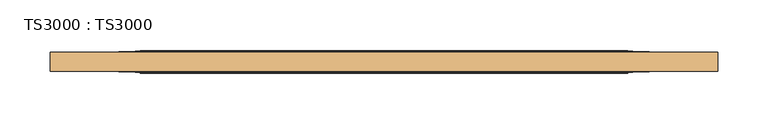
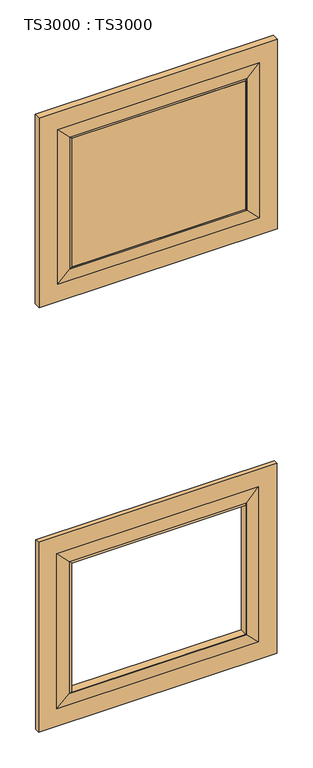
"""IFC4 building model written with IfcOpenShell, lengths in millimetres: door geometry, TS3000 : TS3000."""

import ifcopenshell
import ifcopenshell.guid

model = None  # the IFC model being written
_history = None  # IfcOwnerHistory: only IFC2X3 demands one
_inside = {}  # id of a spatial element -> (the spatial element, [elements in it])
_under = {}  # id of a project, library or spatial element -> (it, [spatial elements below it])
_declared = {}  # id of a project -> (the project, [libraries it declares])
_typed = {}  # id of a type object -> (the type object, [elements of that type])
_made_of = {}  # id of a material, layer set ... -> (it, [elements and type objects made of it])


def new_model(schema):
    """Start an empty IFC model of exactly this schema.

    Asked for "IFC4X3", IfcOpenShell would pick the latest addendum, in which some entities
    have other attributes; the version numbers below select the first issue.
    IFC2X3 requires an IfcOwnerHistory on every rooted entity: one is made here for all.
    """
    global model, _history
    if schema == "IFC4X3":
        model = ifcopenshell.file(schema_version=(4, 3, 0, 0))
    else:
        model = ifcopenshell.file(schema=schema)
    _inside.clear()
    _under.clear()
    _declared.clear()
    _typed.clear()
    _made_of.clear()
    _history = None
    if model.schema == "IFC2X3":
        org = make("IfcOrganization", Name="unknown")
        user = make(
            "IfcPersonAndOrganization",
            ThePerson=make("IfcPerson", FamilyName="unknown"),
            TheOrganization=org,
        )
        app = make(
            "IfcApplication",
            ApplicationDeveloper=org,
            Version="unknown",
            ApplicationFullName="unknown",
            ApplicationIdentifier="unknown",
        )
        _history = make(
            "IfcOwnerHistory",
            OwningUser=user,
            OwningApplication=app,
            ChangeAction="ADDED",
            CreationDate=0,
        )
    return model


def make(cls, **values):
    """One entity of the class cls with the attributes given. An attribute that is None is left unset."""
    return model.create_entity(
        cls, **{name: value for name, value in values.items() if value is not None}
    )


def rooted(cls, **values):
    """An entity with a GlobalId (a new one), such as an element, a storey or a relation."""
    return make(cls, GlobalId=ifcopenshell.guid.new(), OwnerHistory=_history, **values)


def si_unit(unit_type, name, prefix=None):
    """IfcSIUnit, for example si_unit("LENGTHUNIT", "METRE", prefix="MILLI")."""
    return make("IfcSIUnit", UnitType=unit_type, Prefix=prefix, Name=name)


def assignment(units):
    """IfcUnitAssignment: the units of a project."""
    return None if units is None else make("IfcUnitAssignment", Units=units)


def point(xyz):
    """IfcCartesianPoint."""
    return None if xyz is None else make("IfcCartesianPoint", Coordinates=xyz)


def direction(xyz):
    """IfcDirection."""
    return None if xyz is None else make("IfcDirection", DirectionRatios=xyz)


def frame(location, z_axis=None, x_axis=None):
    """IfcAxis2Placement3D, a coordinate frame: its origin and axes. An axis left out is left unset."""
    return make(
        "IfcAxis2Placement3D",
        Location=point(location),
        Axis=direction(z_axis),
        RefDirection=direction(x_axis),
    )


def origin():
    """The frame at (0, 0, 0) with its axes left unset."""
    return frame((0.0, 0.0, 0.0))


def place(relative_to, where):
    """IfcLocalPlacement: puts the frame where relative to a parent placement (None: the world)."""
    return make(
        "IfcLocalPlacement", PlacementRelTo=relative_to, RelativePlacement=where
    )


def context(
    kind, dimensions, precision=None, world=None, true_north=None, identifier=None
):
    """IfcGeometricRepresentationContext, for example the 3D "Model" context."""
    return make(
        "IfcGeometricRepresentationContext",
        ContextIdentifier=identifier,
        ContextType=kind,
        CoordinateSpaceDimension=dimensions,
        Precision=precision,
        WorldCoordinateSystem=world,
        TrueNorth=true_north,
    )


def project(units=None, contexts=None):
    """IfcProject with its units and contexts."""
    return rooted(
        "IfcProject",
        Name="project",
        RepresentationContexts=contexts,
        UnitsInContext=assignment(units),
    )


def spatial(cls, under=None, at=None, **own):
    """A site, building, storey or space (cls), placed at a placement, below another one or the project."""
    s = rooted(cls, ObjectPlacement=at, **own)
    if under is not None:
        _under.setdefault(under.id(), (under, []))[1].append(s)
    return s


def polyline(points):
    """IfcPolyline through the points."""
    return make("IfcPolyline", Points=[point(p) for p in points])


def ellipse_curve(where, semi_axis1, semi_axis2):
    """IfcEllipse in the frame where."""
    return make(
        "IfcEllipse", Position=where, SemiAxis1=semi_axis1, SemiAxis2=semi_axis2
    )


def outline(outer, holes=None, kind="AREA"):
    """IfcArbitraryClosedProfileDef: a profile drawn as a closed curve; with holes, ...WithVoids."""
    if holes is None:
        return make("IfcArbitraryClosedProfileDef", ProfileType=kind, OuterCurve=outer)
    return make(
        "IfcArbitraryProfileDefWithVoids",
        ProfileType=kind,
        OuterCurve=outer,
        InnerCurves=holes,
    )


def extrude(swept, where, along, depth):
    """IfcExtrudedAreaSolid: the profile swept, set in the frame where, extruded along a direction by depth."""
    return make(
        "IfcExtrudedAreaSolid",
        SweptArea=swept,
        Position=where,
        ExtrudedDirection=direction(along),
        Depth=depth,
    )


def shape(context_of_items, identifier, shape_type, items):
    """IfcShapeRepresentation: the items that make up one representation, for example the "Body"."""
    return make(
        "IfcShapeRepresentation",
        ContextOfItems=context_of_items,
        RepresentationIdentifier=identifier,
        RepresentationType=shape_type,
        Items=items,
    )


def source(mapping_origin, context_of_items, identifier, shape_type, items):
    """IfcRepresentationMap: a shape defined once, which mapped items show again and again."""
    return make(
        "IfcRepresentationMap",
        MappingOrigin=mapping_origin,
        MappedRepresentation=shape(context_of_items, identifier, shape_type, items),
    )


def transform(
    local_origin,
    x_axis=None,
    y_axis=None,
    z_axis=None,
    scale=None,
    scale2=None,
    scale3=None,
    uniform=True,
):
    """IfcCartesianTransformationOperator3D, or its non-uniform kind. x_axis, y_axis, z_axis: its Axis1, 2, 3."""
    if uniform:
        return make(
            "IfcCartesianTransformationOperator3D",
            Axis1=direction(x_axis),
            Axis2=direction(y_axis),
            LocalOrigin=point(local_origin),
            Scale=scale,
            Axis3=direction(z_axis),
        )
    return make(
        "IfcCartesianTransformationOperator3DnonUniform",
        Axis1=direction(x_axis),
        Axis2=direction(y_axis),
        LocalOrigin=point(local_origin),
        Scale=scale,
        Axis3=direction(z_axis),
        Scale2=scale2,
        Scale3=scale3,
    )


def mapped(mapping_source, mapping_target):
    """IfcMappedItem: shows the shape of a source again, moved by a transform."""
    return make(
        "IfcMappedItem", MappingSource=mapping_source, MappingTarget=mapping_target
    )


def made_of(thing, what):
    """Note that an element or type object is made of a material, layer set ...; save() writes the relation."""
    if what is not None:
        _made_of.setdefault(what.id(), (what, []))[1].append(thing)
    return thing


def element(
    cls,
    number,
    at=None,
    inside=None,
    cuts=None,
    type_object=None,
    material=None,
    context=None,
    identifier="Body",
    shape_type=None,
    held_by="IfcProductDefinitionShape",
    body=None,
    shapes=None,
    **own,
):
    """One element of the class cls, such as IfcWall. Its Tag is "e" and its number.

    at: its placement. inside: the storey or other place that contains it. cuts: it is an
    opening in that element (IfcRelVoidsElement). A single representation is given by context,
    identifier, shape_type and body (its items); several are given by shapes. held_by: the class
    of the entity that holds the representations. save() writes the other relations.
    """
    e = rooted(cls, Tag="e%d" % number, ObjectPlacement=at, **own)
    if body is not None:
        shapes = [shape(context, identifier, shape_type, body)]
    if shapes is not None:
        e.Representation = make(held_by, Representations=shapes)
    if inside is not None:
        _inside.setdefault(inside.id(), (inside, []))[1].append(e)
    if cuts is not None:
        rooted(
            "IfcRelVoidsElement", RelatingBuildingElement=cuts, RelatedOpeningElement=e
        )
    if type_object is not None:
        _typed.setdefault(type_object.id(), (type_object, []))[1].append(e)
    return made_of(e, material)


def aggregate(whole, parts):
    """IfcRelAggregates: a whole, such as a stair, and the parts it consists of."""
    return rooted("IfcRelAggregates", RelatingObject=whole, RelatedObjects=parts)


def save(model, path):
    """Write the relations noted so far, then the file.

    IfcRelAggregates (storeys below a building ...), IfcRelContainedInSpatialStructure (elements
    in a storey), IfcRelDefinesByType, IfcRelAssociatesMaterial and IfcRelDeclares: one each for
    every whole, place, type object, material and project.
    """
    for whole, parts in _under.values():
        aggregate(whole, parts)
    for where, things in _inside.values():
        rooted(
            "IfcRelContainedInSpatialStructure",
            RelatedElements=things,
            RelatingStructure=where,
        )
    for kind, things in _typed.values():
        rooted("IfcRelDefinesByType", RelatedObjects=things, RelatingType=kind)
    for what, things in _made_of.values():
        rooted("IfcRelAssociatesMaterial", RelatedObjects=things, RelatingMaterial=what)
    for by, libraries in _declared.values():
        rooted("IfcRelDeclares", RelatingContext=by, RelatedDefinitions=libraries)
    model.write(path)


def plane_surface(at):
    """IfcPlane: the flat surface through the origin of the frame at, square to its z axis."""
    return make("IfcPlane", Position=at)


def revolved_surface(curve, axis_point, axis_direction):
    """IfcSurfaceOfRevolution: the curve turned about the line through axis_point along axis_direction."""
    return make(
        "IfcSurfaceOfRevolution",
        SweptCurve=make("IfcArbitraryOpenProfileDef", ProfileType="CURVE", Curve=curve),
        AxisPosition=make("IfcAxis1Placement", Location=point(axis_point), Axis=direction(axis_direction)),
    )


def advanced_brep(points, edges, surfaces, faces):
    """IfcAdvancedBrep: a solid bounded by faces that lie on surfaces and meet in shared edges.

    An edge is (start, end): straight between two places in points (the first is 0);
    or (start, end, curve); or (start, end, curve, False) where it runs against its curve.
    A face is (place in surfaces, loops), or (place, loops, False) where it looks against
    its surface's normal. A loop lists edges by number (the first is 1), with a minus sign
    where the edge is run from its end to its start. The first loop is the outer one.
    """
    corners = [point(p) for p in points]
    vertices = [make("IfcVertexPoint", VertexGeometry=c) for c in corners]
    made = []
    for start, end, *more in edges:
        made.append(
            make(
                "IfcEdgeCurve",
                EdgeStart=vertices[start],
                EdgeEnd=vertices[end],
                EdgeGeometry=more[0] if more else make("IfcPolyline", Points=[corners[start], corners[end]]),
                SameSense=more[1] if len(more) > 1 else True,
            )
        )
    hull = []
    for where, loops, *sense in faces:
        bounds = []
        for j, loop in enumerate(loops):
            ring = [make("IfcOrientedEdge", EdgeElement=made[abs(k) - 1], Orientation=k > 0) for k in loop]
            bounds.append(
                make(
                    "IfcFaceOuterBound" if j == 0 else "IfcFaceBound",
                    Bound=make("IfcEdgeLoop", EdgeList=ring),
                    Orientation=True,
                )
            )
        hull.append(make("IfcAdvancedFace", Bounds=bounds, FaceSurface=surfaces[where], SameSense=sense[0] if sense else True))
    return make("IfcAdvancedBrep", Outer=make("IfcClosedShell", CfsFaces=hull))


def ts3000_ts3000_854737be(model_context):
    return source(origin(), model_context, "Body", "SolidModel", [
        advanced_brep(
        [(787.4, -15.875, 764.1166667), (787.4, -28.575, 764.1166667), (787.4, -28.575, 209.55), (787.4, -15.875, 209.55), (698.5, -33.3375, 675.2166667), (698.5, -11.1125, 675.2166667), (698.5, -11.1125, 298.45), (698.5, -33.3375, 298.45), (127.0, -28.575, 209.55), (127.0, -15.875, 209.55), (215.9, -11.1125, 298.45), (215.9, -33.3375, 298.45), (127.0, -28.575, 764.1166667), (127.0, -15.875, 764.1166667), (215.9, -11.1125, 675.2166667), (215.9, -33.3375, 675.2166667), (736.6, -28.575, 260.35), (177.8, -28.575, 260.35), (177.8, -28.575, 713.3166667), (736.6, -28.575, 713.3166667), (736.6, -15.875, 713.3166667), (177.8, -15.875, 713.3166667), (177.8, -15.875, 260.35), (736.6, -15.875, 260.35), (703.2625, -30.95625, 679.9791667), (703.2625, -30.95625, 293.6875), (211.1375, -30.95625, 293.6875), (211.1375, -30.95625, 679.9791667), (703.2625, -13.49375, 679.9791667), (703.2625, -13.49375, 293.6875), (211.1375, -13.49375, 293.6875), (211.1375, -13.49375, 679.9791667)],
        [
            (0, 1),
            (1, 2),
            (2, 3),
            (3, 0),
            (4, 5),
            (5, 6),
            (6, 7),
            (7, 4),
            (2, 8),
            (8, 9),
            (9, 3),
            (6, 10),
            (10, 11),
            (11, 7),
            (8, 12),
            (12, 13),
            (13, 9),
            (10, 14),
            (14, 15),
            (15, 11),
            (1, 12),
            (16, 17),
            (17, 18),
            (18, 19),
            (19, 16),
            (0, 13),
            (20, 21),
            (21, 22),
            (22, 23),
            (23, 20),
            (14, 5),
            (4, 15),
            (19, 24),
            (24, 25),
            (25, 16),
            (25, 26),
            (26, 17),
            (26, 27),
            (27, 18),
            (27, 24),
            (28, 20),
            (23, 29),
            (29, 28),
            (5, 28, ellipse_curve(frame((703.7585938, -6.5484375, 680.4752604), z_axis=(-0.7071067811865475, 0.0, 0.7071067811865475), x_axis=(-0.7071067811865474, 0.0, -0.7071067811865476)), 9.8471798, 6.9630076)),
            (29, 6, ellipse_curve(frame((703.7585938, -6.5484375, 293.1914062), z_axis=(-0.7071067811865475, 0.0, -0.7071067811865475), x_axis=(0.7071067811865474, 0.0, -0.7071067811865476)), 9.8471798, 6.9630076)),
            (24, 4, ellipse_curve(frame((703.7585938, -37.9015625, 680.4752604), z_axis=(-0.7071067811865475, 0.0, 0.7071067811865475), x_axis=(-0.7071067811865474, 0.0, -0.7071067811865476)), 9.8471798, 6.9630076)),
            (7, 25, ellipse_curve(frame((703.7585938, -37.9015625, 293.1914062), z_axis=(-0.7071067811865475, 0.0, -0.7071067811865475), x_axis=(0.7071067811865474, 0.0, -0.7071067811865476)), 9.8471798, 6.9630076)),
            (22, 30),
            (30, 29),
            (30, 10, ellipse_curve(frame((210.6414062, -6.5484375, 293.1914062), z_axis=(-0.7071067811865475, 0.0, 0.7071067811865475), x_axis=(-0.7071067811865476, 0.0, -0.7071067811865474)), 9.8471798, 6.9630076)),
            (11, 26, ellipse_curve(frame((210.6414062, -37.9015625, 293.1914062), z_axis=(-0.7071067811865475, 0.0, 0.7071067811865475), x_axis=(-0.7071067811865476, 0.0, -0.7071067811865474)), 9.8471798, 6.9630076)),
            (21, 31),
            (31, 30),
            (31, 14, ellipse_curve(frame((210.6414062, -6.5484375, 680.4752604), z_axis=(0.7071067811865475, 0.0, 0.7071067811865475), x_axis=(-0.7071067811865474, 0.0, 0.7071067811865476)), 9.8471798, 6.9630076)),
            (15, 27, ellipse_curve(frame((210.6414062, -37.9015625, 680.4752604), z_axis=(0.7071067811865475, 0.0, 0.7071067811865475), x_axis=(-0.7071067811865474, 0.0, 0.7071067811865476)), 9.8471798, 6.9630076)),
            (28, 31),
        ],
        [
            plane_surface(frame((787.4, -28.575, 764.1166667), z_axis=(1.0, 0.0, 0.0), x_axis=(0.0, 0.0, -1.0))),
            plane_surface(frame((698.5, -11.1125, 675.2166667), z_axis=(-1.0, 0.0, 0.0), x_axis=(0.0, 0.0, -1.0))),
            plane_surface(frame((787.4, -28.575, 209.55), z_axis=(0.0, 0.0, -1.0), x_axis=(-1.0, 0.0, 0.0))),
            plane_surface(frame((698.5, -11.1125, 298.45), z_axis=(0.0, 0.0, 1.0), x_axis=(-1.0, 0.0, 0.0))),
            plane_surface(frame((127.0, -28.575, 209.55), z_axis=(-1.0, 0.0, 0.0), x_axis=(0.0, 0.0, 1.0))),
            plane_surface(frame((215.9, -11.1125, 298.45), z_axis=(1.0, 0.0, 0.0), x_axis=(0.0, 0.0, 1.0))),
            plane_surface(frame((177.8, -28.575, 713.3166667), z_axis=(0.0, -1.0, 0.0), x_axis=(1.0, 0.0, 0.0))),
            plane_surface(frame((127.0, -28.575, 764.1166667), z_axis=(0.0, 0.0, 1.0), x_axis=(1.0, 0.0, 0.0))),
            plane_surface(frame((127.0, -15.875, 764.1166667), z_axis=(0.0, 1.0, 0.0), x_axis=(1.0, 0.0, 0.0))),
            plane_surface(frame((215.9, -11.1125, 675.2166667), z_axis=(0.0, 0.0, -1.0), x_axis=(1.0, 0.0, 0.0))),
            plane_surface(frame((703.2625, -30.95625, 679.9791667), z_axis=(0.07124704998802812, -0.9974586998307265, 0.0), x_axis=(0.0, 0.0, -1.0))),
            plane_surface(frame((703.2625, -30.95625, 293.6875), z_axis=(0.0, -0.9974586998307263, -0.07124704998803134), x_axis=(-1.0, 0.0, 0.0))),
            plane_surface(frame((211.1375, -30.95625, 293.6875), z_axis=(-0.07124704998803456, -0.9974586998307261, 0.0), x_axis=(0.0, 0.0, 1.0))),
            plane_surface(frame((211.1375, -30.95625, 679.9791667), z_axis=(0.0, -0.9974586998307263, 0.07124704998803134), x_axis=(1.0, 0.0, 0.0))),
            plane_surface(frame((736.6, -15.875, 713.3166667), z_axis=(0.07124704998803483, 0.9974586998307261, 0.0), x_axis=(0.0, 0.0, -1.0))),
            revolved_surface(polyline([(696.7955862, -6.5484375, 286.2283985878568), (696.7955862, -6.5484375, 687.4382680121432)]), (703.7585938, -6.5484375, 675.2166667), (0.0, 0.0, -1.0)),
            revolved_surface(polyline([(696.7955862, -37.9015625, 286.2283985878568), (696.7955862, -37.9015625, 687.4382680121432)]), (703.7585938, -37.9015625, 675.2166667), (0.0, 0.0, -1.0)),
            plane_surface(frame((736.6, -15.875, 260.35), z_axis=(0.0, 0.9974586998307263, -0.07124704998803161), x_axis=(-1.0, 0.0, 0.0))),
            revolved_surface(polyline([(203.6783985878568, -6.5484375, 300.15441380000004), (710.7216014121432, -6.5484375, 300.15441380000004)]), (698.5, -6.5484375, 293.1914062), (-1.0, 0.0, 0.0)),
            revolved_surface(polyline([(203.6783985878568, -37.9015625, 300.15441380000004), (710.7216014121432, -37.9015625, 300.15441380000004)]), (698.5, -37.9015625, 293.1914062), (-1.0, 0.0, 0.0)),
            plane_surface(frame((177.8, -15.875, 260.35), z_axis=(-0.07124704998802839, 0.9974586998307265, 0.0), x_axis=(0.0, 0.0, 1.0))),
            revolved_surface(polyline([(217.6044138, -6.5484375, 687.4382680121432), (217.6044138, -6.5484375, 286.2283985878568)]), (210.6414062, -6.5484375, 298.45), (0.0, 0.0, 1.0)),
            revolved_surface(polyline([(217.6044138, -37.9015625, 687.4382680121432), (217.6044138, -37.9015625, 286.2283985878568)]), (210.6414062, -37.9015625, 298.45), (0.0, 0.0, 1.0)),
            plane_surface(frame((177.8, -15.875, 713.3166667), z_axis=(0.0, 0.9974586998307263, 0.07124704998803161), x_axis=(1.0, 0.0, 0.0))),
            revolved_surface(polyline([(710.7216014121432, -6.5484375, 673.5122528), (203.6783985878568, -6.5484375, 673.5122528)]), (215.9, -6.5484375, 680.4752604), (1.0, 0.0, 0.0)),
            revolved_surface(polyline([(710.7216014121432, -37.9015625, 673.5122528), (203.6783985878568, -37.9015625, 673.5122528)]), (215.9, -37.9015625, 680.4752604), (1.0, 0.0, 0.0)),
        ],
        [
            (0, [[1, 2, 3, 4]]),
            (1, [[5, 6, 7, 8]]),
            (2, [[-3, 9, 10, 11]]),
            (3, [[-7, 12, 13, 14]]),
            (4, [[-10, 15, 16, 17]]),
            (5, [[-13, 18, 19, 20]]),
            (6, [[21, -15, -9, -2], [22, 23, 24, 25]]),
            (7, [[-16, -21, -1, 26]]),
            (8, [[-11, -17, -26, -4], [27, 28, 29, 30]]),
            (9, [[-19, 31, -5, 32]]),
            (10, [[33, 34, 35, -25]]),
            (11, [[-35, 36, 37, -22]]),
            (12, [[-37, 38, 39, -23]]),
            (13, [[-39, 40, -33, -24]]),
            (14, [[41, -30, 42, 43]]),
            (15, [[44, -43, 45, -6]]),
            (16, [[46, -8, 47, -34]]),
            (17, [[-42, -29, 48, 49]]),
            (18, [[-45, -49, 50, -12]]),
            (19, [[-47, -14, 51, -36]]),
            (20, [[-48, -28, 52, 53]]),
            (21, [[-50, -53, 54, -18]]),
            (22, [[-51, -20, 55, -38]]),
            (23, [[-52, -27, -41, 56]]),
            (24, [[-54, -56, -44, -31]]),
            (25, [[-55, -32, -46, -40]]),
        ],
    ),
        advanced_brep(
        [(787.4, -12.7, 2006.6), (787.4, -31.75, 2006.6), (787.4, -31.75, 1452.0333333), (787.4, -12.7, 1452.0333333), (698.5, -33.3375, 1917.7), (698.5, -11.1125, 1917.7), (698.5, -11.1125, 1540.9333333), (698.5, -33.3375, 1540.9333333), (127.0, -31.75, 1452.0333333), (127.0, -12.7, 1452.0333333), (215.9, -11.1125, 1540.9333333), (215.9, -33.3375, 1540.9333333), (127.0, -31.75, 2006.6), (127.0, -12.7, 2006.6), (215.9, -11.1125, 1917.7), (215.9, -33.3375, 1917.7), (736.6, -31.75, 1502.8333333), (177.8, -31.75, 1502.8333333), (177.8, -31.75, 1955.8), (736.6, -31.75, 1955.8), (736.6, -12.7, 1955.8), (177.8, -12.7, 1955.8), (177.8, -12.7, 1502.8333333), (736.6, -12.7, 1502.8333333), (703.2625, -32.54375, 1922.4625), (703.2625, -32.54375, 1536.1708333), (211.1375, -32.54375, 1536.1708333), (211.1375, -32.54375, 1922.4625), (703.2625, -11.90625, 1922.4625), (703.2625, -11.90625, 1536.1708333), (211.1375, -11.90625, 1536.1708333), (211.1375, -11.90625, 1922.4625)],
        [
            (0, 1),
            (1, 2),
            (2, 3),
            (3, 0),
            (4, 5),
            (5, 6),
            (6, 7),
            (7, 4),
            (2, 8),
            (8, 9),
            (9, 3),
            (6, 10),
            (10, 11),
            (11, 7),
            (8, 12),
            (12, 13),
            (13, 9),
            (10, 14),
            (14, 15),
            (15, 11),
            (1, 12),
            (16, 17),
            (17, 18),
            (18, 19),
            (19, 16),
            (0, 13),
            (20, 21),
            (21, 22),
            (22, 23),
            (23, 20),
            (14, 5),
            (4, 15),
            (19, 24),
            (24, 25),
            (25, 16),
            (25, 26),
            (26, 17),
            (26, 27),
            (27, 18),
            (27, 24),
            (28, 20),
            (23, 29),
            (29, 28),
            (5, 28, ellipse_curve(frame((703.7585938, 5.7546875, 1922.9585938), z_axis=(-0.7071067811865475, 0.0, 0.7071067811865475), x_axis=(-0.7071067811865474, 0.0, -0.7071067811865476)), 24.9861891, 17.6679037)),
            (29, 6, ellipse_curve(frame((703.7585938, 5.7546875, 1535.6747396), z_axis=(-0.7071067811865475, 0.0, -0.7071067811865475), x_axis=(0.7071067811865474, 0.0, -0.7071067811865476)), 24.9861891, 17.6679037)),
            (24, 4, ellipse_curve(frame((703.7585938, -50.2046875, 1922.9585938), z_axis=(-0.7071067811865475, 0.0, 0.7071067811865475), x_axis=(-0.7071067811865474, 0.0, -0.7071067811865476)), 24.9861891, 17.6679037)),
            (7, 25, ellipse_curve(frame((703.7585938, -50.2046875, 1535.6747396), z_axis=(-0.7071067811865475, 0.0, -0.7071067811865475), x_axis=(0.7071067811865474, 0.0, -0.7071067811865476)), 24.9861891, 17.6679037)),
            (22, 30),
            (30, 29),
            (30, 10, ellipse_curve(frame((210.6414063, 5.7546875, 1535.6747396), z_axis=(-0.7071067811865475, 0.0, 0.7071067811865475), x_axis=(-0.7071067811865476, 0.0, -0.7071067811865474)), 24.9861891, 17.6679037)),
            (11, 26, ellipse_curve(frame((210.6414063, -50.2046875, 1535.6747396), z_axis=(-0.7071067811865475, 0.0, 0.7071067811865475), x_axis=(-0.7071067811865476, 0.0, -0.7071067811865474)), 24.9861891, 17.6679037)),
            (21, 31),
            (31, 30),
            (31, 14, ellipse_curve(frame((210.6414063, 5.7546875, 1922.9585938), z_axis=(0.7071067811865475, 0.0, 0.7071067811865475), x_axis=(-0.7071067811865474, 0.0, 0.7071067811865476)), 24.9861891, 17.6679037)),
            (15, 27, ellipse_curve(frame((210.6414063, -50.2046875, 1922.9585938), z_axis=(0.7071067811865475, 0.0, 0.7071067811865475), x_axis=(-0.7071067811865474, 0.0, 0.7071067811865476)), 24.9861891, 17.6679037)),
            (28, 31),
        ],
        [
            plane_surface(frame((787.4, -31.75, 2006.6), z_axis=(1.0, 0.0, 0.0), x_axis=(0.0, 0.0, -1.0))),
            plane_surface(frame((698.5, -11.1125, 1917.7), z_axis=(-1.0, 0.0, 0.0), x_axis=(0.0, 0.0, -1.0))),
            plane_surface(frame((787.4, -31.75, 1452.0333333), z_axis=(0.0, 0.0, -1.0), x_axis=(-1.0, 0.0, 0.0))),
            plane_surface(frame((698.5, -11.1125, 1540.9333333), z_axis=(0.0, 0.0, 1.0), x_axis=(-1.0, 0.0, 0.0))),
            plane_surface(frame((127.0, -31.75, 1452.0333333), z_axis=(-1.0, 0.0, 0.0), x_axis=(0.0, 0.0, 1.0))),
            plane_surface(frame((215.9, -11.1125, 1540.9333333), z_axis=(1.0, 0.0, 0.0), x_axis=(0.0, 0.0, 1.0))),
            plane_surface(frame((177.8, -31.75, 1955.8), z_axis=(0.0, -1.0, 0.0), x_axis=(1.0, 0.0, 0.0))),
            plane_surface(frame((127.0, -31.75, 2006.6), z_axis=(0.0, 0.0, 1.0), x_axis=(1.0, 0.0, 0.0))),
            plane_surface(frame((127.0, -12.7, 2006.6), z_axis=(0.0, 1.0, 0.0), x_axis=(1.0, 0.0, 0.0))),
            plane_surface(frame((215.9, -11.1125, 1917.7), z_axis=(0.0, 0.0, -1.0), x_axis=(1.0, 0.0, 0.0))),
            plane_surface(frame((703.2625, -32.54375, 1922.4625), z_axis=(0.023802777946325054, -0.9997166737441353, 0.0), x_axis=(0.0, 0.0, -1.0))),
            plane_surface(frame((703.2625, -32.54375, 1536.1708333), z_axis=(0.0, -0.9997166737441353, -0.02380277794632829), x_axis=(-1.0, 0.0, 0.0))),
            plane_surface(frame((211.1375, -32.54375, 1536.1708333), z_axis=(-0.023802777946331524, -0.9997166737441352, 0.0), x_axis=(0.0, 0.0, 1.0))),
            plane_surface(frame((211.1375, -32.54375, 1922.4625), z_axis=(0.0, -0.9997166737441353, 0.02380277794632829), x_axis=(1.0, 0.0, 0.0))),
            plane_surface(frame((736.6, -12.7, 1955.8), z_axis=(0.023802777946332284, 0.9997166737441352, 0.0), x_axis=(0.0, 0.0, -1.0))),
            revolved_surface(polyline([(686.0906901, 5.7546875, 1518.0068358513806), (686.0906901, 5.7546875, 1940.6264975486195)]), (703.7585938, 5.7546875, 1917.7), (0.0, 0.0, -1.0)),
            revolved_surface(polyline([(686.0906901, -50.2046875, 1518.0068358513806), (686.0906901, -50.2046875, 1940.6264975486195)]), (703.7585938, -50.2046875, 1917.7), (0.0, 0.0, -1.0)),
            plane_surface(frame((736.6, -12.7, 1502.8333333), z_axis=(0.0, 0.9997166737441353, -0.02380277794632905), x_axis=(-1.0, 0.0, 0.0))),
            revolved_surface(polyline([(192.9735025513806, 5.7546875, 1553.3426433), (721.4264975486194, 5.7546875, 1553.3426433)]), (698.5, 5.7546875, 1535.6747396), (-1.0, 0.0, 0.0)),
            revolved_surface(polyline([(192.9735025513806, -50.2046875, 1553.3426433), (721.4264975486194, -50.2046875, 1553.3426433)]), (698.5, -50.2046875, 1535.6747396), (-1.0, 0.0, 0.0)),
            plane_surface(frame((177.8, -12.7, 1502.8333333), z_axis=(-0.023802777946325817, 0.9997166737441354, 0.0), x_axis=(0.0, 0.0, 1.0))),
            revolved_surface(polyline([(228.30931, 5.7546875, 1940.6264975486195), (228.30931, 5.7546875, 1518.0068358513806)]), (210.6414063, 5.7546875, 1540.9333333), (0.0, 0.0, 1.0)),
            revolved_surface(polyline([(228.30931, -50.2046875, 1940.6264975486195), (228.30931, -50.2046875, 1518.0068358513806)]), (210.6414063, -50.2046875, 1540.9333333), (0.0, 0.0, 1.0)),
            plane_surface(frame((177.8, -12.7, 1955.8), z_axis=(0.0, 0.9997166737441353, 0.02380277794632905), x_axis=(1.0, 0.0, 0.0))),
            revolved_surface(polyline([(721.4264975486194, 5.7546875, 1905.2906901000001), (192.9735025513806, 5.7546875, 1905.2906901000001)]), (215.9, 5.7546875, 1922.9585938), (1.0, 0.0, 0.0)),
            revolved_surface(polyline([(721.4264975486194, -50.2046875, 1905.2906901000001), (192.9735025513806, -50.2046875, 1905.2906901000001)]), (215.9, -50.2046875, 1922.9585938), (1.0, 0.0, 0.0)),
        ],
        [
            (0, [[1, 2, 3, 4]]),
            (1, [[5, 6, 7, 8]]),
            (2, [[-3, 9, 10, 11]]),
            (3, [[-7, 12, 13, 14]]),
            (4, [[-10, 15, 16, 17]]),
            (5, [[-13, 18, 19, 20]]),
            (6, [[21, -15, -9, -2], [22, 23, 24, 25]]),
            (7, [[-16, -21, -1, 26]]),
            (8, [[-11, -17, -26, -4], [27, 28, 29, 30]]),
            (9, [[-19, 31, -5, 32]]),
            (10, [[33, 34, 35, -25]]),
            (11, [[-35, 36, 37, -22]]),
            (12, [[-37, 38, 39, -23]]),
            (13, [[-39, 40, -33, -24]]),
            (14, [[41, -30, 42, 43]]),
            (15, [[44, -43, 45, -6]]),
            (16, [[46, -8, 47, -34]]),
            (17, [[-42, -29, 48, 49]]),
            (18, [[-45, -49, 50, -12]]),
            (19, [[-47, -14, 51, -36]]),
            (20, [[-48, -28, 52, 53]]),
            (21, [[-50, -53, 54, -18]]),
            (22, [[-51, -20, 55, -38]]),
            (23, [[-52, -27, -41, 56]]),
            (24, [[-54, -56, -44, -31]]),
            (25, [[-55, -32, -46, -40]]),
        ],
    ),
        extrude(outline(polyline([(215.9, -11.1125), (698.5, -11.1125), (698.5, -33.3375), (215.9, -33.3375), (215.9, -11.1125)])), frame((0.0, 0.0, 1540.9333333), z_axis=(0.0, 0.0, 1.0), x_axis=(1.0, 0.0, 0.0)), (0.0, 0.0, 1.0), 376.7666667),
    ])


if __name__ == "__main__":
    model = new_model("IFC4")
    model_context = context("Model", 3, world=origin())
    ifc_project = project(units=[si_unit("LENGTHUNIT", "METRE", prefix="MILLI")], contexts=[model_context])
    site = spatial("IfcSite", under=ifc_project)
    building = spatial("IfcBuilding", under=site)
    placement = place(None, origin())
    ts3000_ts3000_shape = ts3000_ts3000_854737be(model_context)
    element("IfcDoor", 1, ObjectType="TS3000 : TS3000", at=placement, inside=building, context=model_context, shape_type="MappedRepresentation", body=[
        mapped(ts3000_ts3000_shape, transform((0.0, 0.0, 0.0), x_axis=(1.0, 0.0, 0.0), y_axis=(0.0, 1.0, 0.0), z_axis=(0.0, 0.0, 1.0))),
    ])
    save(model, "model.ifc")
